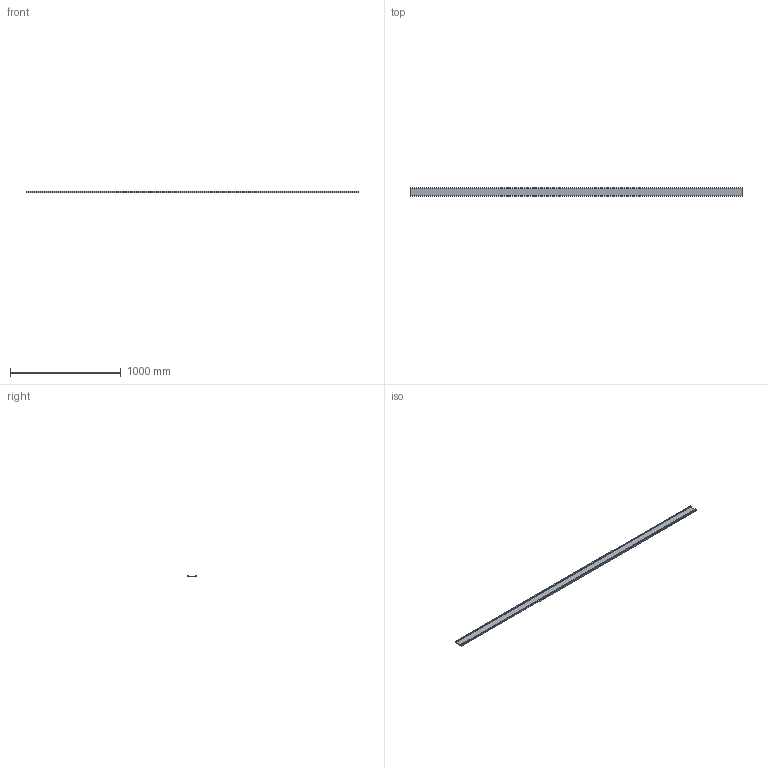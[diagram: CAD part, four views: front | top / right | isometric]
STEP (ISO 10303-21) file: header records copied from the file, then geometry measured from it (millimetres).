
FILE_DESCRIPTION (( 'STEP AP214' ), '1' );
FILE_NAME ('FABER - FD7 6.step', '2017-04-06T07:45:54', ( '' ), ( '' ), 'SwSTEP 2.0', 'SolidWorks 2016', '' );
FILE_SCHEMA (( 'AUTOMOTIVE_DESIGN' ));
Length unit declared in the file: millimetre
Products named in the file (1): FABER - FD7 6
Bounding box: 3000 x 80 x 14 mm (x, y, z)
Volume: 1378500 mm3; surface area: 690919 mm2
Topology: 1 solids, 1 shells, 14 faces, 36 edges, 24 vertices
Faces by surface type: plane 14
Entity records: 454 total; most frequent: CARTESIAN_POINT 75, ORIENTED_EDGE 72, DIRECTION 66, VECTOR 36, LINE 36, EDGE_CURVE 36, VERTEX_POINT 24, AXIS2_PLACEMENT_3D 15
